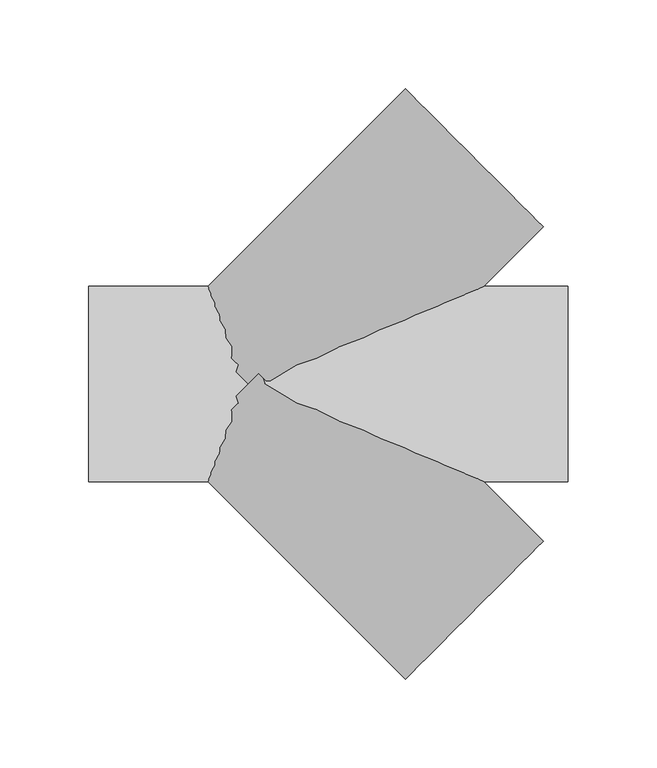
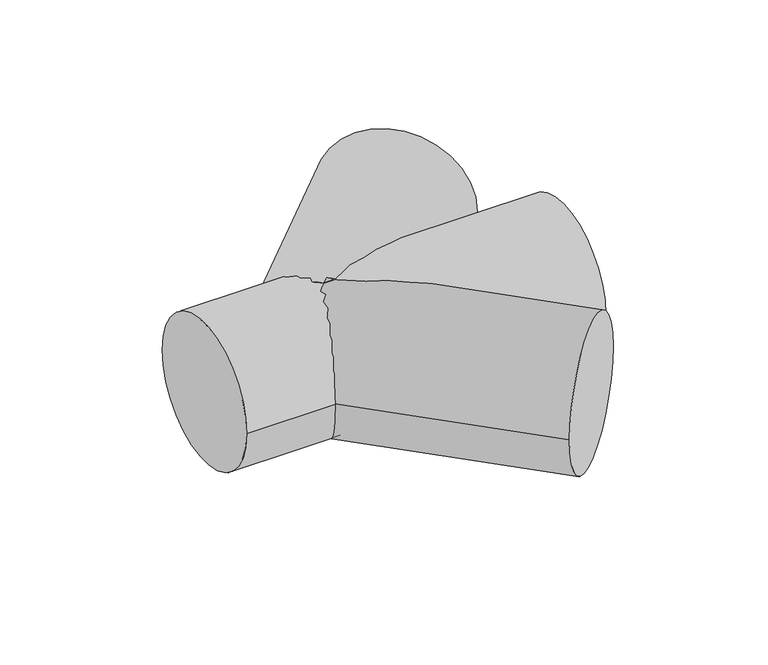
"""IFC4 building model written with IfcOpenShell, lengths in millimetres: pipe fitting geometry, NLRS_52_PIF_UN_PE tweevoudig T-stuk 45°_geb : DN40-100 / ø40-110."""

from ifc_helpers import new_model, si_unit, point, frame, origin, origin_2d, place, context, project, spatial, circle_curve, trimmed, segment, composite_curve, outline, extrude, source, transform, mapped, element, save


def pipe_fitting_c2f5c8ad(model_context):
    return source(origin(), model_context, "Body", "SweptSolid", [
        extrude(outline(composite_curve([segment(trimmed(circle_curve(origin_2d(), 55.0), [point((0.0, -55.0))], [point((0.0, 55.0))], False, "CARTESIAN"), True, "CONTINUOUS"), segment(trimmed(circle_curve(origin_2d(), 55.0), [point((0.0, 55.0))], [point((0.0, -55.0))], False, "CARTESIAN"), True, "CONTINUOUS")], self_intersect=False)), frame((127.2792206, -127.2792206, 0.0), z_axis=(-0.707106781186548, 0.707106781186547, 0.0), x_axis=(0.0, 0.0, 1.0)), (0.0, 0.0, 1.0), 180.0),
        extrude(outline(composite_curve([segment(trimmed(circle_curve(origin_2d(), 55.0), [point((0.0, 55.0))], [point((0.0, -55.0))], False, "CARTESIAN"), True, "CONTINUOUS"), segment(trimmed(circle_curve(origin_2d(), 55.0), [point((0.0, -55.0))], [point((0.0, 55.0))], False, "CARTESIAN"), True, "CONTINUOUS")], self_intersect=False)), frame((0.0, 0.0, 0.0), z_axis=(0.7071067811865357, 0.7071067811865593, 0.0), x_axis=(0.0, 0.0, 1.0)), (0.0, 0.0, 1.0), 180.0),
        extrude(outline(composite_curve([segment(trimmed(circle_curve(origin_2d(), 55.0), [point((-55.0, 0.0))], [point((55.0, 0.0))], False, "CARTESIAN"), True, "CONTINUOUS"), segment(trimmed(circle_curve(origin_2d(), 55.0), [point((55.0, 0.0))], [point((-55.0, 0.0))], False, "CARTESIAN"), True, "CONTINUOUS")], self_intersect=False)), frame((-90.0, 0.0, 0.0), z_axis=(1.0, 0.0, 0.0), x_axis=(0.0, 1.0, 0.0)), (0.0, 0.0, 1.0), 270.0),
    ])


if __name__ == "__main__":
    model = new_model("IFC4")
    model_context = context("Model", 3, world=origin())
    ifc_project = project(units=[si_unit("LENGTHUNIT", "METRE", prefix="MILLI")], contexts=[model_context])
    site = spatial("IfcSite", under=ifc_project)
    building = spatial("IfcBuilding", under=site)
    placement = place(None, origin())
    pipe_fitting_shape = pipe_fitting_c2f5c8ad(model_context)
    element("IfcPipeFitting", 1, ObjectType="NLRS_52_PIF_UN_PE tweevoudig T-stuk 45°_geb : DN40-100 / ø40-110", at=placement, inside=building, context=model_context, shape_type="MappedRepresentation", body=[
        mapped(pipe_fitting_shape, transform((0.0, 0.0, 0.0), x_axis=(1.0, 0.0, 0.0), y_axis=(0.0, 1.0, 0.0), z_axis=(0.0, 0.0, 1.0))),
    ])
    save(model, "model.ifc")
